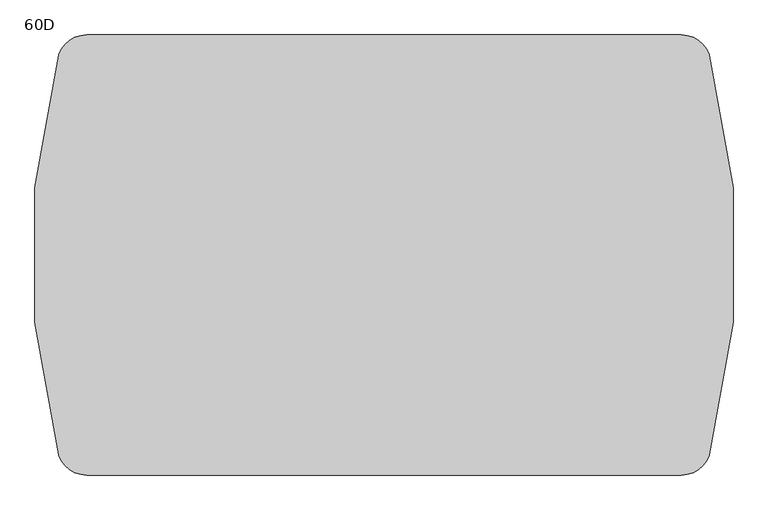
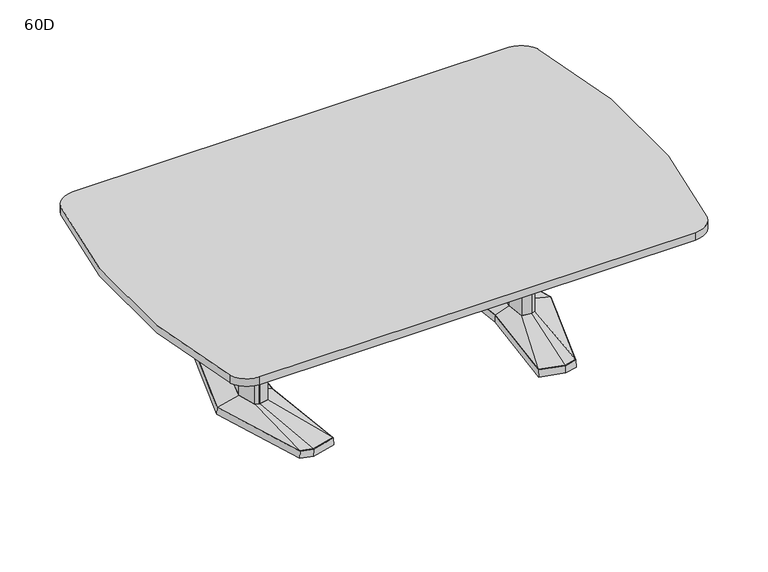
"""IFC4 building model written with IfcOpenShell, lengths in millimetres: furniture geometry, Coalesse_AM_Table_Conference_ETable2_SoftRadiused_96in_AluminiumBase : 60D."""

import ifcopenshell
import ifcopenshell.guid

model = None  # the IFC model being written
_history = None  # IfcOwnerHistory: only IFC2X3 demands one
_inside = {}  # id of a spatial element -> (the spatial element, [elements in it])
_under = {}  # id of a project, library or spatial element -> (it, [spatial elements below it])
_declared = {}  # id of a project -> (the project, [libraries it declares])
_typed = {}  # id of a type object -> (the type object, [elements of that type])
_made_of = {}  # id of a material, layer set ... -> (it, [elements and type objects made of it])


def new_model(schema):
    """Start an empty IFC model of exactly this schema.

    Asked for "IFC4X3", IfcOpenShell would pick the latest addendum, in which some entities
    have other attributes; the version numbers below select the first issue.
    IFC2X3 requires an IfcOwnerHistory on every rooted entity: one is made here for all.
    """
    global model, _history
    if schema == "IFC4X3":
        model = ifcopenshell.file(schema_version=(4, 3, 0, 0))
    else:
        model = ifcopenshell.file(schema=schema)
    _inside.clear()
    _under.clear()
    _declared.clear()
    _typed.clear()
    _made_of.clear()
    _history = None
    if model.schema == "IFC2X3":
        org = make("IfcOrganization", Name="unknown")
        user = make(
            "IfcPersonAndOrganization",
            ThePerson=make("IfcPerson", FamilyName="unknown"),
            TheOrganization=org,
        )
        app = make(
            "IfcApplication",
            ApplicationDeveloper=org,
            Version="unknown",
            ApplicationFullName="unknown",
            ApplicationIdentifier="unknown",
        )
        _history = make(
            "IfcOwnerHistory",
            OwningUser=user,
            OwningApplication=app,
            ChangeAction="ADDED",
            CreationDate=0,
        )
    return model


def make(cls, **values):
    """One entity of the class cls with the attributes given. An attribute that is None is left unset."""
    return model.create_entity(
        cls, **{name: value for name, value in values.items() if value is not None}
    )


def rooted(cls, **values):
    """An entity with a GlobalId (a new one), such as an element, a storey or a relation."""
    return make(cls, GlobalId=ifcopenshell.guid.new(), OwnerHistory=_history, **values)


def si_unit(unit_type, name, prefix=None):
    """IfcSIUnit, for example si_unit("LENGTHUNIT", "METRE", prefix="MILLI")."""
    return make("IfcSIUnit", UnitType=unit_type, Prefix=prefix, Name=name)


def assignment(units):
    """IfcUnitAssignment: the units of a project."""
    return None if units is None else make("IfcUnitAssignment", Units=units)


def point(xyz):
    """IfcCartesianPoint."""
    return None if xyz is None else make("IfcCartesianPoint", Coordinates=xyz)


def direction(xyz):
    """IfcDirection."""
    return None if xyz is None else make("IfcDirection", DirectionRatios=xyz)


def frame(location, z_axis=None, x_axis=None):
    """IfcAxis2Placement3D, a coordinate frame: its origin and axes. An axis left out is left unset."""
    return make(
        "IfcAxis2Placement3D",
        Location=point(location),
        Axis=direction(z_axis),
        RefDirection=direction(x_axis),
    )


def frame_2d(location, x_axis=None):
    """IfcAxis2Placement2D, a coordinate frame in the plane: its origin and x axis."""
    return make(
        "IfcAxis2Placement2D", Location=point(location), RefDirection=direction(x_axis)
    )


def origin():
    """The frame at (0, 0, 0) with its axes left unset."""
    return frame((0.0, 0.0, 0.0))


def place(relative_to, where):
    """IfcLocalPlacement: puts the frame where relative to a parent placement (None: the world)."""
    return make(
        "IfcLocalPlacement", PlacementRelTo=relative_to, RelativePlacement=where
    )


def context(
    kind, dimensions, precision=None, world=None, true_north=None, identifier=None
):
    """IfcGeometricRepresentationContext, for example the 3D "Model" context."""
    return make(
        "IfcGeometricRepresentationContext",
        ContextIdentifier=identifier,
        ContextType=kind,
        CoordinateSpaceDimension=dimensions,
        Precision=precision,
        WorldCoordinateSystem=world,
        TrueNorth=true_north,
    )


def project(units=None, contexts=None):
    """IfcProject with its units and contexts."""
    return rooted(
        "IfcProject",
        Name="project",
        RepresentationContexts=contexts,
        UnitsInContext=assignment(units),
    )


def spatial(cls, under=None, at=None, **own):
    """A site, building, storey or space (cls), placed at a placement, below another one or the project."""
    s = rooted(cls, ObjectPlacement=at, **own)
    if under is not None:
        _under.setdefault(under.id(), (under, []))[1].append(s)
    return s


def polyline(points):
    """IfcPolyline through the points."""
    return make("IfcPolyline", Points=[point(p) for p in points])


def circle_curve(where, radius):
    """IfcCircle in the frame where."""
    return make("IfcCircle", Position=where, Radius=radius)


def trimmed(basis, trim1, trim2, sense, master):
    """IfcTrimmedCurve: the piece of a basis curve between two trims."""
    return make(
        "IfcTrimmedCurve",
        BasisCurve=basis,
        Trim1=trim1,
        Trim2=trim2,
        SenseAgreement=sense,
        MasterRepresentation=master,
    )


def segment(curve, same_sense, transition):
    """IfcCompositeCurveSegment."""
    return make(
        "IfcCompositeCurveSegment",
        Transition=transition,
        SameSense=same_sense,
        ParentCurve=curve,
    )


def composite_curve(segments, self_intersect=None):
    """IfcCompositeCurve: segments joined end to end."""
    return make("IfcCompositeCurve", Segments=segments, SelfIntersect=self_intersect)


def outline(outer, holes=None, kind="AREA"):
    """IfcArbitraryClosedProfileDef: a profile drawn as a closed curve; with holes, ...WithVoids."""
    if holes is None:
        return make("IfcArbitraryClosedProfileDef", ProfileType=kind, OuterCurve=outer)
    return make(
        "IfcArbitraryProfileDefWithVoids",
        ProfileType=kind,
        OuterCurve=outer,
        InnerCurves=holes,
    )


def extrude(swept, where, along, depth):
    """IfcExtrudedAreaSolid: the profile swept, set in the frame where, extruded along a direction by depth."""
    return make(
        "IfcExtrudedAreaSolid",
        SweptArea=swept,
        Position=where,
        ExtrudedDirection=direction(along),
        Depth=depth,
    )


def faces_of(points, faces, orient=None, outer=None):
    """IfcFace entities. A face is a list of loops; a loop is a list of indices into points, from 0.

    orient and outer hold one flag for each loop. By default every Orientation is true, the
    first loop of a face is its IfcFaceOuterBound and the others are IfcFaceBound.
    """
    made = []
    for i, loops in enumerate(faces):
        bounds = []
        for j, loop in enumerate(loops):
            is_outer = j == 0 if outer is None else outer[i][j]
            bounds.append(
                make(
                    "IfcFaceOuterBound" if is_outer else "IfcFaceBound",
                    Bound=make("IfcPolyLoop", Polygon=[points[k] for k in loop]),
                    Orientation=True if orient is None else orient[i][j],
                )
            )
        made.append(make("IfcFace", Bounds=bounds))
    return made


def faceted_brep(points, faces, orient=None, outer=None, voids=None):
    """IfcFacetedBrep: a solid bounded by flat faces; with voids (closed shells), ...WithVoids."""
    shared = [point(p) for p in points]
    hull = make("IfcClosedShell", CfsFaces=faces_of(shared, faces, orient, outer))
    if voids is None:
        return make("IfcFacetedBrep", Outer=hull)
    return make(
        "IfcFacetedBrepWithVoids",
        Outer=hull,
        Voids=[
            make(cls, CfsFaces=faces_of(shared, fs, o, b)) for cls, fs, o, b in voids
        ],
    )


def shape(context_of_items, identifier, shape_type, items):
    """IfcShapeRepresentation: the items that make up one representation, for example the "Body"."""
    return make(
        "IfcShapeRepresentation",
        ContextOfItems=context_of_items,
        RepresentationIdentifier=identifier,
        RepresentationType=shape_type,
        Items=items,
    )


def source(mapping_origin, context_of_items, identifier, shape_type, items):
    """IfcRepresentationMap: a shape defined once, which mapped items show again and again."""
    return make(
        "IfcRepresentationMap",
        MappingOrigin=mapping_origin,
        MappedRepresentation=shape(context_of_items, identifier, shape_type, items),
    )


def transform(
    local_origin,
    x_axis=None,
    y_axis=None,
    z_axis=None,
    scale=None,
    scale2=None,
    scale3=None,
    uniform=True,
):
    """IfcCartesianTransformationOperator3D, or its non-uniform kind. x_axis, y_axis, z_axis: its Axis1, 2, 3."""
    if uniform:
        return make(
            "IfcCartesianTransformationOperator3D",
            Axis1=direction(x_axis),
            Axis2=direction(y_axis),
            LocalOrigin=point(local_origin),
            Scale=scale,
            Axis3=direction(z_axis),
        )
    return make(
        "IfcCartesianTransformationOperator3DnonUniform",
        Axis1=direction(x_axis),
        Axis2=direction(y_axis),
        LocalOrigin=point(local_origin),
        Scale=scale,
        Axis3=direction(z_axis),
        Scale2=scale2,
        Scale3=scale3,
    )


def mapped(mapping_source, mapping_target):
    """IfcMappedItem: shows the shape of a source again, moved by a transform."""
    return make(
        "IfcMappedItem", MappingSource=mapping_source, MappingTarget=mapping_target
    )


def made_of(thing, what):
    """Note that an element or type object is made of a material, layer set ...; save() writes the relation."""
    if what is not None:
        _made_of.setdefault(what.id(), (what, []))[1].append(thing)
    return thing


def element(
    cls,
    number,
    at=None,
    inside=None,
    cuts=None,
    type_object=None,
    material=None,
    context=None,
    identifier="Body",
    shape_type=None,
    held_by="IfcProductDefinitionShape",
    body=None,
    shapes=None,
    **own,
):
    """One element of the class cls, such as IfcWall. Its Tag is "e" and its number.

    at: its placement. inside: the storey or other place that contains it. cuts: it is an
    opening in that element (IfcRelVoidsElement). A single representation is given by context,
    identifier, shape_type and body (its items); several are given by shapes. held_by: the class
    of the entity that holds the representations. save() writes the other relations.
    """
    e = rooted(cls, Tag="e%d" % number, ObjectPlacement=at, **own)
    if body is not None:
        shapes = [shape(context, identifier, shape_type, body)]
    if shapes is not None:
        e.Representation = make(held_by, Representations=shapes)
    if inside is not None:
        _inside.setdefault(inside.id(), (inside, []))[1].append(e)
    if cuts is not None:
        rooted(
            "IfcRelVoidsElement", RelatingBuildingElement=cuts, RelatedOpeningElement=e
        )
    if type_object is not None:
        _typed.setdefault(type_object.id(), (type_object, []))[1].append(e)
    return made_of(e, material)


def aggregate(whole, parts):
    """IfcRelAggregates: a whole, such as a stair, and the parts it consists of."""
    return rooted("IfcRelAggregates", RelatingObject=whole, RelatedObjects=parts)


def save(model, path):
    """Write the relations noted so far, then the file.

    IfcRelAggregates (storeys below a building ...), IfcRelContainedInSpatialStructure (elements
    in a storey), IfcRelDefinesByType, IfcRelAssociatesMaterial and IfcRelDeclares: one each for
    every whole, place, type object, material and project.
    """
    for whole, parts in _under.values():
        aggregate(whole, parts)
    for where, things in _inside.values():
        rooted(
            "IfcRelContainedInSpatialStructure",
            RelatedElements=things,
            RelatingStructure=where,
        )
    for kind, things in _typed.values():
        rooted("IfcRelDefinesByType", RelatedObjects=things, RelatingType=kind)
    for what, things in _made_of.values():
        rooted("IfcRelAssociatesMaterial", RelatedObjects=things, RelatingMaterial=what)
    for by, libraries in _declared.values():
        rooted("IfcRelDeclares", RelatingContext=by, RelatedDefinitions=libraries)
    model.write(path)


def plane_surface(at):
    """IfcPlane: the flat surface through the origin of the frame at, square to its z axis."""
    return make("IfcPlane", Position=at)


def spline_surface(u_degree, v_degree, points, u_multiplicities, v_multiplicities, u_knots, v_knots, weights=None):
    """IfcBSplineSurfaceWithKnots; with weights, IfcRationalBSplineSurfaceWithKnots. points: one row for each step in u."""
    own = dict(
        UDegree=u_degree,
        VDegree=v_degree,
        ControlPointsList=[[point(p) for p in row] for row in points],
        SurfaceForm="UNSPECIFIED",
        UClosed=False,
        VClosed=False,
        SelfIntersect=False,
        UMultiplicities=u_multiplicities,
        VMultiplicities=v_multiplicities,
        UKnots=u_knots,
        VKnots=v_knots,
        KnotSpec="UNSPECIFIED",
    )
    if weights is None:
        return make("IfcBSplineSurfaceWithKnots", **own)
    return make("IfcRationalBSplineSurfaceWithKnots", WeightsData=weights, **own)


def advanced_brep(points, edges, surfaces, faces):
    """IfcAdvancedBrep: a solid bounded by faces that lie on surfaces and meet in shared edges.

    An edge is (start, end): straight between two places in points (the first is 0);
    or (start, end, curve); or (start, end, curve, False) where it runs against its curve.
    A face is (place in surfaces, loops), or (place, loops, False) where it looks against
    its surface's normal. A loop lists edges by number (the first is 1), with a minus sign
    where the edge is run from its end to its start. The first loop is the outer one.
    """
    corners = [point(p) for p in points]
    vertices = [make("IfcVertexPoint", VertexGeometry=c) for c in corners]
    made = []
    for start, end, *more in edges:
        made.append(
            make(
                "IfcEdgeCurve",
                EdgeStart=vertices[start],
                EdgeEnd=vertices[end],
                EdgeGeometry=more[0] if more else make("IfcPolyline", Points=[corners[start], corners[end]]),
                SameSense=more[1] if len(more) > 1 else True,
            )
        )
    hull = []
    for where, loops, *sense in faces:
        bounds = []
        for j, loop in enumerate(loops):
            ring = [make("IfcOrientedEdge", EdgeElement=made[abs(k) - 1], Orientation=k > 0) for k in loop]
            bounds.append(
                make(
                    "IfcFaceOuterBound" if j == 0 else "IfcFaceBound",
                    Bound=make("IfcEdgeLoop", EdgeList=ring),
                    Orientation=True,
                )
            )
        hull.append(make("IfcAdvancedFace", Bounds=bounds, FaceSurface=surfaces[where], SameSense=sense[0] if sense else True))
    return make("IfcAdvancedBrep", Outer=make("IfcClosedShell", CfsFaces=hull))


def furniture_60d_240b983f(model_context):
    return source(origin(), model_context, "Body", "SolidModel", [
        faceted_brep([(594.6806835, 455.5848221, 38.1), (485.1031277, 426.2263816, 38.1), (526.2663717, 0.0, 38.1), (485.1031277, -426.2263816, 38.1), (594.6806835, -455.5848221, 38.1), (650.8070396, -440.5478297, 38.1), (788.1184269, 0.0, 38.1), (650.8070396, 440.5478297, 38.1), (594.6806754, 457.2283104, 3.175), (652.0624472, 441.8549756, 3.175), (789.78125, 0.0, 3.175), (652.0624472, -441.8549756, 3.175), (594.6806754, -457.2283104, 3.175), (483.39375, -427.4118891, 3.175), (524.6714856, 0.0, 3.175), (483.39375, 427.4118891, 3.175), (598.270115, 428.3273875, 3.175), (493.2218228, 402.1057253, 3.175), (501.340518, 377.985069, 3.175), (601.8595466, 401.0699529, 3.175), (652.4191725, 387.524361, 3.175), (651.6131061, 414.0360954, 3.175), (598.270115, -428.3273875, 3.175), (651.6131061, -414.0360954, 3.175), (652.4191725, -387.524361, 3.175), (601.8595466, -401.0699529, 3.175), (501.340518, -377.985069, 3.175), (493.2218228, -402.1057253, 3.175), (724.8653621, 0.0, 3.175), (692.5959611, 120.4193755, 3.175), (643.9487222, 133.471665, 3.175), (564.0680526, 119.4176561, 3.175), (552.9368466, 0.0, 3.175), (564.0680526, -119.4176561, 3.175), (643.9487222, -133.471665, 3.175), (692.5959611, -120.4193755, 3.175), (598.270115, 428.3273875, 0.0), (651.6131061, 414.0360954, 0.0), (652.4191725, 387.524361, 0.0), (601.8595466, 401.0699529, 0.0), (501.340518, 377.985069, 0.0), (493.2218228, 402.1057253, 0.0), (598.270115, -428.3273875, 0.0), (493.2218228, -402.1057253, 0.0), (501.340518, -377.985069, 0.0), (601.8595466, -401.0699529, 0.0), (652.4191725, -387.524361, 0.0), (651.6131061, -414.0360954, 0.0), (724.8653621, 0.0, 0.0), (692.5959611, -120.4193755, 0.0), (643.9487222, -133.471665, 0.0), (564.0680526, -119.4176561, 0.0), (552.9368466, 0.0, 0.0), (564.0680526, 119.4176561, 0.0), (643.9487222, 133.471665, 0.0), (692.5959611, 120.4193755, 0.0)], [[[0, 1, 2, 3, 4, 5, 6, 7]], [[8, 9, 10, 11, 12, 13, 14, 15], [16, 17, 18, 19, 20, 21], [22, 23, 24, 25, 26, 27], [28, 29, 30, 31, 32, 33, 34, 35]], [[7, 9, 8, 0]], [[6, 10, 9, 7]], [[5, 11, 10, 6]], [[4, 12, 11, 5]], [[3, 13, 12, 4]], [[2, 14, 13, 3]], [[1, 15, 14, 2]], [[0, 8, 15, 1]], [[36, 37, 38, 39, 40, 41]], [[42, 43, 44, 45, 46, 47]], [[48, 49, 50, 51, 52, 53, 54, 55]], [[36, 16, 21, 37]], [[37, 21, 20, 38]], [[38, 20, 19, 39]], [[39, 19, 18, 40]], [[40, 18, 17, 41]], [[41, 17, 16, 36]], [[42, 22, 27, 43]], [[43, 27, 26, 44]], [[44, 26, 25, 45]], [[45, 25, 24, 46]], [[46, 24, 23, 47]], [[47, 23, 22, 42]], [[48, 28, 35, 49]], [[49, 35, 34, 50]], [[50, 34, 33, 51]], [[51, 33, 32, 52]], [[52, 32, 31, 53]], [[53, 31, 30, 54]], [[54, 30, 29, 55]], [[55, 29, 28, 48]]]),
        faceted_brep([(685.4210836, 0.0, 698.5), (661.4858546, 89.3188359, 698.5), (644.6324984, 93.8406728, 698.5), (642.2326511, 94.4845635, 698.5), (599.305146, 86.9320037, 698.5), (591.2020056, 0.0, 698.5), (599.305146, -86.9320037, 698.5), (642.2326511, -94.4845635, 698.5), (644.6324984, -93.8406728, 698.5), (661.4858546, -89.3188359, 698.5), (685.4210836, 0.0, 63.5), (661.4858546, -89.3188359, 63.5), (644.6324984, -93.8406728, 63.5), (642.2326511, -94.4845635, 63.5), (599.305146, -86.9320037, 63.5), (591.2020056, 0.0, 63.5), (599.305146, 86.9320037, 63.5), (642.2326511, 94.4845635, 63.5), (644.6324984, 93.8406728, 63.5), (661.4858546, 89.3188359, 63.5)], [[[0, 1, 2, 3, 4, 5, 6, 7, 8, 9]], [[10, 11, 12, 13, 14, 15, 16, 17, 18, 19]], [[9, 11, 10, 0]], [[8, 12, 11, 9]], [[7, 13, 12, 8]], [[6, 14, 13, 7]], [[5, 15, 14, 6]], [[4, 16, 15, 5]], [[3, 17, 16, 4]], [[2, 18, 17, 3]], [[1, 19, 18, 2]], [[0, 10, 19, 1]]]),
        advanced_brep(
        [(642.2326511, 94.4845635, 63.5), (599.305146, 86.9320037, 63.5), (591.2020056, 0.0, 63.5), (599.305146, -86.9320037, 63.5), (642.2326511, -94.4845635, 63.5), (661.4858546, -89.3188359, 63.5), (685.4210836, 0.0, 63.5), (661.4858546, 89.3188359, 63.5), (594.6806835, 455.5848221, 38.1), (650.8070396, 440.5478297, 38.1), (788.1184269, 0.0, 38.1), (650.8070396, -440.5478297, 38.1), (594.6806835, -455.5848221, 38.1), (485.1031277, -426.2263816, 38.1), (526.2663717, 0.0, 38.1), (485.1031277, 426.2263816, 38.1)],
        [
            (0, 1),
            (1, 2),
            (2, 3),
            (3, 4),
            (4, 5),
            (5, 6),
            (6, 7),
            (7, 0),
            (8, 9),
            (9, 10),
            (10, 11),
            (11, 12),
            (12, 13),
            (13, 14),
            (14, 15),
            (15, 8),
            (8, 0),
            (7, 9),
            (6, 10),
            (5, 11),
            (4, 12),
            (3, 13),
            (2, 14),
            (1, 15),
        ],
        [
            plane_surface(frame((635.3337991, 0.0, 63.5), z_axis=(0.0, 0.0, 1.0), x_axis=(-0.25884244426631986, -0.9659195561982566, 0.0))),
            plane_surface(frame((596.9458125, 0.0, 38.1), z_axis=(0.0, 0.0, -1.0), x_axis=(-0.25884244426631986, -0.9659195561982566, 0.0))),
            spline_surface(1, 1, [[(594.6806835, 455.5848221, 38.1), (650.8070396, 440.5478297, 38.1)], [(642.2326511, 94.4845635, 63.5), (661.4858546, 89.3188359, 63.5)]], [2, 2], [2, 2], [0.0, 1.0], [0.0, 1.0]),
            spline_surface(1, 1, [[(650.8070396, 440.5478297, 38.1), (788.1184269, 0.0, 38.1)], [(661.4858546, 89.3188359, 63.5), (685.4210836, 0.0, 63.5)]], [2, 2], [2, 2], [0.0, 1.0], [0.0, 1.0]),
            spline_surface(1, 1, [[(788.1184269, 0.0, 38.1), (650.8070396, -440.5478297, 38.1)], [(685.4210836, 0.0, 63.5), (661.4858546, -89.3188359, 63.5)]], [2, 2], [2, 2], [0.0, 1.0], [0.0, 1.0]),
            spline_surface(1, 1, [[(650.8070396, -440.5478297, 38.1), (594.6806835, -455.5848221, 38.1)], [(661.4858546, -89.3188359, 63.5), (642.2326511, -94.4845635, 63.5)]], [2, 2], [2, 2], [0.0, 1.0], [0.0, 1.0]),
            spline_surface(1, 1, [[(594.6806835, -455.5848221, 38.1), (485.1031277, -426.2263816, 38.1)], [(642.2326511, -94.4845635, 63.5), (599.305146, -86.9320037, 63.5)]], [2, 2], [2, 2], [0.0, 1.0], [0.0, 1.0]),
            spline_surface(1, 1, [[(485.1031277, -426.2263816, 38.1), (526.2663717, 0.0, 38.1)], [(599.305146, -86.9320037, 63.5), (591.2020056, 0.0, 63.5)]], [2, 2], [2, 2], [0.0, 1.0], [0.0, 1.0]),
            spline_surface(1, 1, [[(526.2663717, 0.0, 38.1), (485.1031277, 426.2263816, 38.1)], [(591.2020056, 0.0, 63.5), (599.305146, 86.9320037, 63.5)]], [2, 2], [2, 2], [0.0, 1.0], [0.0, 1.0]),
            spline_surface(1, 1, [[(485.1031277, 426.2263816, 38.1), (594.6806835, 455.5848221, 38.1)], [(599.305146, 86.9320037, 63.5), (642.2326511, 94.4845635, 63.5)]], [2, 2], [2, 2], [0.0, 1.0], [0.0, 1.0]),
        ],
        [
            (0, [[1, 2, 3, 4, 5, 6, 7, 8]]),
            (1, [[9, 10, 11, 12, 13, 14, 15, 16]]),
            (2, [[17, -8, 18, -9]]),
            (3, [[-18, -7, 19, -10]]),
            (4, [[-19, -6, 20, -11]]),
            (5, [[-20, -5, 21, -12]]),
            (6, [[-21, -4, 22, -13]]),
            (7, [[-22, -3, 23, -14]]),
            (8, [[-23, -2, 24, -15]]),
            (9, [[-24, -1, -17, -16]]),
        ],
    ),
        faceted_brep([(-594.6806835, 455.5848221, 38.1), (-650.8070396, 440.5478297, 38.1), (-788.1184269, 0.0, 38.1), (-650.8070396, -440.5478297, 38.1), (-594.6806835, -455.5848221, 38.1), (-485.1031277, -426.2263816, 38.1), (-526.2663717, 0.0, 38.1), (-485.1031277, 426.2263816, 38.1), (-594.6806754, 457.2283104, 3.175), (-483.39375, 427.4118891, 3.175), (-524.6714856, 0.0, 3.175), (-483.39375, -427.4118891, 3.175), (-594.6806754, -457.2283104, 3.175), (-652.0624472, -441.8549756, 3.175), (-789.78125, 0.0, 3.175), (-652.0624472, 441.8549756, 3.175), (-598.270115, 428.3273875, 3.175), (-651.6131061, 414.0360954, 3.175), (-652.4191725, 387.524361, 3.175), (-601.8595466, 401.0699529, 3.175), (-501.340518, 377.985069, 3.175), (-493.2218228, 402.1057253, 3.175), (-598.270115, -428.3273875, 3.175), (-493.2218228, -402.1057253, 3.175), (-501.340518, -377.985069, 3.175), (-601.8595466, -401.0699529, 3.175), (-652.4191725, -387.524361, 3.175), (-651.6131061, -414.0360954, 3.175), (-724.8653621, 0.0, 3.175), (-692.5959611, -120.4193755, 3.175), (-643.9487222, -133.471665, 3.175), (-564.0680526, -119.4176561, 3.175), (-552.9368466, 0.0, 3.175), (-564.0680526, 119.4176561, 3.175), (-643.9487222, 133.471665, 3.175), (-692.5959611, 120.4193755, 3.175), (-598.270115, 428.3273875, 0.0), (-493.2218228, 402.1057253, 0.0), (-501.340518, 377.985069, 0.0), (-601.8595466, 401.0699529, 0.0), (-652.4191725, 387.524361, 0.0), (-651.6131061, 414.0360954, 0.0), (-598.270115, -428.3273875, 0.0), (-651.6131061, -414.0360954, 0.0), (-652.4191725, -387.524361, 0.0), (-601.8595466, -401.0699529, 0.0), (-501.340518, -377.985069, 0.0), (-493.2218228, -402.1057253, 0.0), (-724.8653621, 0.0, 0.0), (-692.5959611, 120.4193755, 0.0), (-643.9487222, 133.471665, 0.0), (-564.0680526, 119.4176561, 0.0), (-552.9368466, 0.0, 0.0), (-564.0680526, -119.4176561, 0.0), (-643.9487222, -133.471665, 0.0), (-692.5959611, -120.4193755, 0.0)], [[[0, 1, 2, 3, 4, 5, 6, 7]], [[8, 9, 10, 11, 12, 13, 14, 15], [16, 17, 18, 19, 20, 21], [22, 23, 24, 25, 26, 27], [28, 29, 30, 31, 32, 33, 34, 35]], [[1, 0, 8, 15]], [[2, 1, 15, 14]], [[3, 2, 14, 13]], [[4, 3, 13, 12]], [[5, 4, 12, 11]], [[6, 5, 11, 10]], [[7, 6, 10, 9]], [[0, 7, 9, 8]], [[36, 37, 38, 39, 40, 41]], [[42, 43, 44, 45, 46, 47]], [[48, 49, 50, 51, 52, 53, 54, 55]], [[36, 41, 17, 16]], [[41, 40, 18, 17]], [[40, 39, 19, 18]], [[39, 38, 20, 19]], [[38, 37, 21, 20]], [[37, 36, 16, 21]], [[42, 47, 23, 22]], [[47, 46, 24, 23]], [[46, 45, 25, 24]], [[45, 44, 26, 25]], [[44, 43, 27, 26]], [[43, 42, 22, 27]], [[48, 55, 29, 28]], [[55, 54, 30, 29]], [[54, 53, 31, 30]], [[53, 52, 32, 31]], [[52, 51, 33, 32]], [[51, 50, 34, 33]], [[50, 49, 35, 34]], [[49, 48, 28, 35]]]),
        faceted_brep([(-685.4210836, 0.0, 698.5), (-661.4858546, -89.3188359, 698.5), (-644.6324984, -93.8406728, 698.5), (-642.2326511, -94.4845635, 698.5), (-599.305146, -86.9320037, 698.5), (-591.2020056, 0.0, 698.5), (-599.305146, 86.9320037, 698.5), (-642.2326511, 94.4845635, 698.5), (-644.6324984, 93.8406728, 698.5), (-661.4858546, 89.3188359, 698.5), (-685.4210836, 0.0, 63.5), (-661.4858546, 89.3188359, 63.5), (-644.6324984, 93.8406728, 63.5), (-642.2326511, 94.4845635, 63.5), (-599.305146, 86.9320037, 63.5), (-591.2020056, 0.0, 63.5), (-599.305146, -86.9320037, 63.5), (-642.2326511, -94.4845635, 63.5), (-644.6324984, -93.8406728, 63.5), (-661.4858546, -89.3188359, 63.5)], [[[0, 1, 2, 3, 4, 5, 6, 7, 8, 9]], [[10, 11, 12, 13, 14, 15, 16, 17, 18, 19]], [[1, 0, 10, 19]], [[2, 1, 19, 18]], [[3, 2, 18, 17]], [[4, 3, 17, 16]], [[5, 4, 16, 15]], [[6, 5, 15, 14]], [[7, 6, 14, 13]], [[8, 7, 13, 12]], [[9, 8, 12, 11]], [[0, 9, 11, 10]]]),
        advanced_brep(
        [(-642.2326511, 94.4845635, 63.5), (-661.4858546, 89.3188359, 63.5), (-685.4210836, 0.0, 63.5), (-661.4858546, -89.3188359, 63.5), (-642.2326511, -94.4845635, 63.5), (-599.305146, -86.9320037, 63.5), (-591.2020056, 0.0, 63.5), (-599.305146, 86.9320037, 63.5), (-594.6806835, 455.5848221, 38.1), (-485.1031277, 426.2263816, 38.1), (-526.2663717, 0.0, 38.1), (-485.1031277, -426.2263816, 38.1), (-594.6806835, -455.5848221, 38.1), (-650.8070396, -440.5478297, 38.1), (-788.1184269, 0.0, 38.1), (-650.8070396, 440.5478297, 38.1)],
        [
            (0, 1),
            (1, 2),
            (2, 3),
            (3, 4),
            (4, 5),
            (5, 6),
            (6, 7),
            (7, 0),
            (8, 9),
            (9, 10),
            (10, 11),
            (11, 12),
            (12, 13),
            (13, 14),
            (14, 15),
            (15, 8),
            (15, 1),
            (0, 8),
            (14, 2),
            (13, 3),
            (12, 4),
            (11, 5),
            (10, 6),
            (9, 7),
        ],
        [
            plane_surface(frame((-635.3337991, 0.0, 63.5), z_axis=(0.0, 0.0, 1.0), x_axis=(0.25884244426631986, -0.9659195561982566, 0.0))),
            plane_surface(frame((-596.9458125, 0.0, 38.1), z_axis=(0.0, 0.0, -1.0), x_axis=(0.25884244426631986, -0.9659195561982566, 0.0))),
            spline_surface(1, 1, [[(-594.6806835, 455.5848221, 38.1), (-642.2326511, 94.4845635, 63.5)], [(-650.8070396, 440.5478297, 38.1), (-661.4858546, 89.3188359, 63.5)]], [2, 2], [2, 2], [0.0, 1.0], [0.0, 1.0]),
            spline_surface(1, 1, [[(-650.8070396, 440.5478297, 38.1), (-661.4858546, 89.3188359, 63.5)], [(-788.1184269, 0.0, 38.1), (-685.4210836, 0.0, 63.5)]], [2, 2], [2, 2], [0.0, 1.0], [0.0, 1.0]),
            spline_surface(1, 1, [[(-788.1184269, 0.0, 38.1), (-685.4210836, 0.0, 63.5)], [(-650.8070396, -440.5478297, 38.1), (-661.4858546, -89.3188359, 63.5)]], [2, 2], [2, 2], [0.0, 1.0], [0.0, 1.0]),
            spline_surface(1, 1, [[(-650.8070396, -440.5478297, 38.1), (-661.4858546, -89.3188359, 63.5)], [(-594.6806835, -455.5848221, 38.1), (-642.2326511, -94.4845635, 63.5)]], [2, 2], [2, 2], [0.0, 1.0], [0.0, 1.0]),
            spline_surface(1, 1, [[(-594.6806835, -455.5848221, 38.1), (-642.2326511, -94.4845635, 63.5)], [(-485.1031277, -426.2263816, 38.1), (-599.305146, -86.9320037, 63.5)]], [2, 2], [2, 2], [0.0, 1.0], [0.0, 1.0]),
            spline_surface(1, 1, [[(-485.1031277, -426.2263816, 38.1), (-599.305146, -86.9320037, 63.5)], [(-526.2663717, 0.0, 38.1), (-591.2020056, 0.0, 63.5)]], [2, 2], [2, 2], [0.0, 1.0], [0.0, 1.0]),
            spline_surface(1, 1, [[(-526.2663717, 0.0, 38.1), (-591.2020056, 0.0, 63.5)], [(-485.1031277, 426.2263816, 38.1), (-599.305146, 86.9320037, 63.5)]], [2, 2], [2, 2], [0.0, 1.0], [0.0, 1.0]),
            spline_surface(1, 1, [[(-485.1031277, 426.2263816, 38.1), (-599.305146, 86.9320037, 63.5)], [(-594.6806835, 455.5848221, 38.1), (-642.2326511, 94.4845635, 63.5)]], [2, 2], [2, 2], [0.0, 1.0], [0.0, 1.0]),
        ],
        [
            (0, [[1, 2, 3, 4, 5, 6, 7, 8]]),
            (1, [[9, 10, 11, 12, 13, 14, 15, 16]]),
            (2, [[-16, 17, -1, 18]]),
            (3, [[-15, 19, -2, -17]]),
            (4, [[-14, 20, -3, -19]]),
            (5, [[-13, 21, -4, -20]]),
            (6, [[-12, 22, -5, -21]]),
            (7, [[-11, 23, -6, -22]]),
            (8, [[-10, 24, -7, -23]]),
            (9, [[-9, -18, -8, -24]]),
        ],
    ),
        extrude(outline(polyline([(96.8375, 698.5), (103.1875, 698.5), (103.1875, 476.25), (-103.1875, 476.25), (-103.1875, 698.5), (-96.8375, 698.5), (-96.8375, 482.6), (96.8375, 482.6), (96.8375, 698.5)])), frame((-597.9364207, 0.0, 0.0), z_axis=(1.0, 0.0, 0.0), x_axis=(0.0, 1.0, 0.0)), (0.0, 0.0, 1.0), 1195.8728415),
        extrude(outline(composite_curve([segment(polyline([(-1125.8457112, -694.2652296), (-1126.6015465, -692.1273037)]), True, "CONTINUOUS"), segment(trimmed(circle_curve(frame_2d((1413.7343608, -0.0024402)), 2632.9343608), [point((-1126.6015465, -692.1273037))], [point((-1126.5956256, 692.1441544))], False, "CARTESIAN"), True, "CONTINUOUS"), segment(polyline([(-1126.5956256, 692.1441544), (-1125.8453442, 694.2662966)]), True, "CONTINUOUS"), segment(trimmed(circle_curve(frame_2d((-1030.0558148, 660.4)), 101.6), [point((-1125.8453442, 694.2662966))], [point((-1030.0558148, 762.0))], False, "CARTESIAN"), True, "CONTINUOUS"), segment(polyline([(-1030.0558148, 762.0), (1030.0557872, 762.0)]), True, "CONTINUOUS"), segment(trimmed(circle_curve(frame_2d((1030.0557872, 660.3999756)), 101.6000244), [point((1030.0557872, 762.0))], [point((1125.8457112, 694.2652296))], False, "CARTESIAN"), True, "CONTINUOUS"), segment(polyline([(1125.8457112, 694.2652296), (1126.6015465, 692.1223198)]), True, "CONTINUOUS"), segment(trimmed(circle_curve(frame_2d((-1413.7157351, -5.18e-05)), 2632.9157351), [point((1126.6015465, 692.1223198))], [point((1126.5956256, -692.1441544))], False, "CARTESIAN"), True, "CONTINUOUS"), segment(polyline([(1126.5956256, -692.1441544), (1125.8453442, -694.2662966)]), True, "CONTINUOUS"), segment(trimmed(circle_curve(frame_2d((1030.0558148, -660.4)), 101.6), [point((1125.8453442, -694.2662966))], [point((1030.0558148, -762.0))], False, "CARTESIAN"), True, "CONTINUOUS"), segment(polyline([(1030.0558148, -762.0), (-1030.0557872, -762.0)]), True, "CONTINUOUS"), segment(trimmed(circle_curve(frame_2d((-1030.0557872, -660.3999756)), 101.6000244), [point((-1030.0557872, -762.0))], [point((-1125.8457112, -694.2652296))], False, "CARTESIAN"), True, "CONTINUOUS")], self_intersect=False)), frame((0.0, 0.0, 698.5), z_axis=(0.0, 0.0, 1.0), x_axis=(1.0, 0.0, 0.0)), (0.0, 0.0, 1.0), 38.1),
    ])


if __name__ == "__main__":
    model = new_model("IFC4")
    model_context = context("Model", 3, world=origin())
    ifc_project = project(units=[si_unit("LENGTHUNIT", "METRE", prefix="MILLI")], contexts=[model_context])
    site = spatial("IfcSite", under=ifc_project)
    building = spatial("IfcBuilding", under=site)
    placement = place(None, origin())
    furniture_60d_shape = furniture_60d_240b983f(model_context)
    element("IfcFurniture", 1, ObjectType="Coalesse_AM_Table_Conference_ETable2_SoftRadiused_96in_AluminiumBase : 60D", at=placement, inside=building, context=model_context, shape_type="MappedRepresentation", body=[
        mapped(furniture_60d_shape, transform((0.0, 0.0, 0.0), x_axis=(1.0, 0.0, 0.0), y_axis=(0.0, 1.0, 0.0), z_axis=(0.0, 0.0, 1.0))),
    ])
    save(model, "model.ifc")
